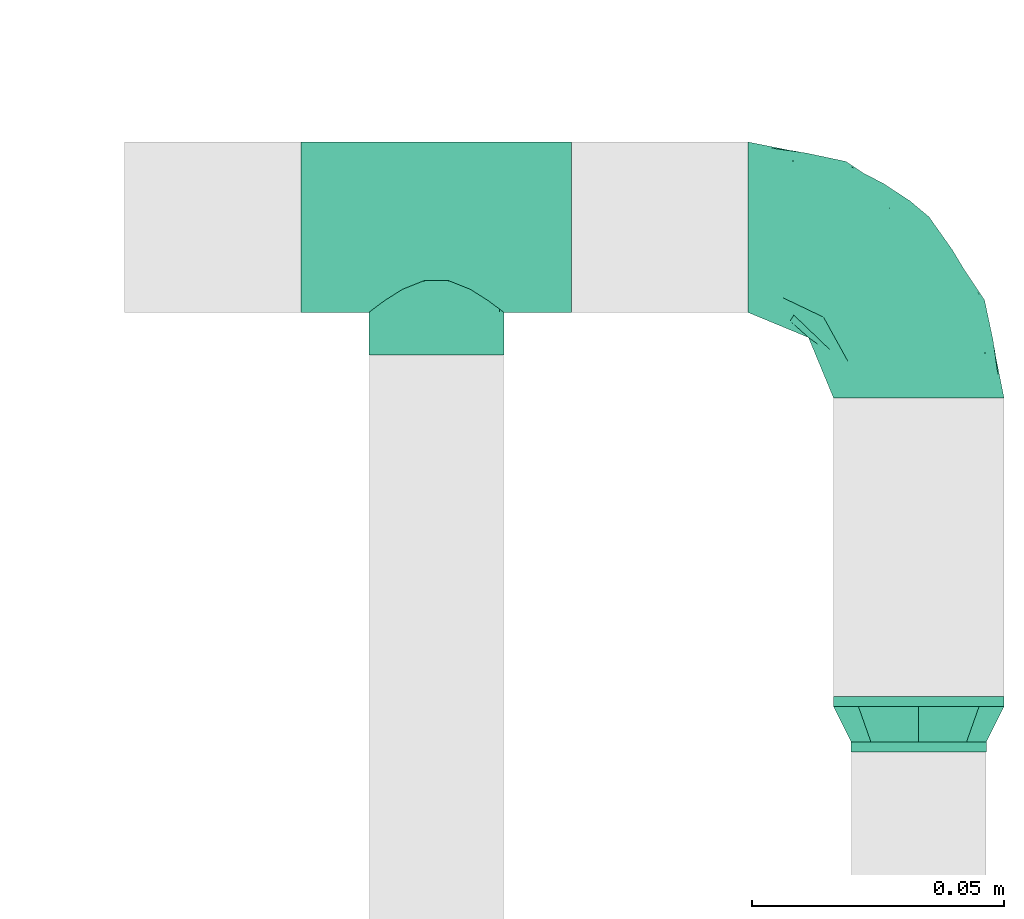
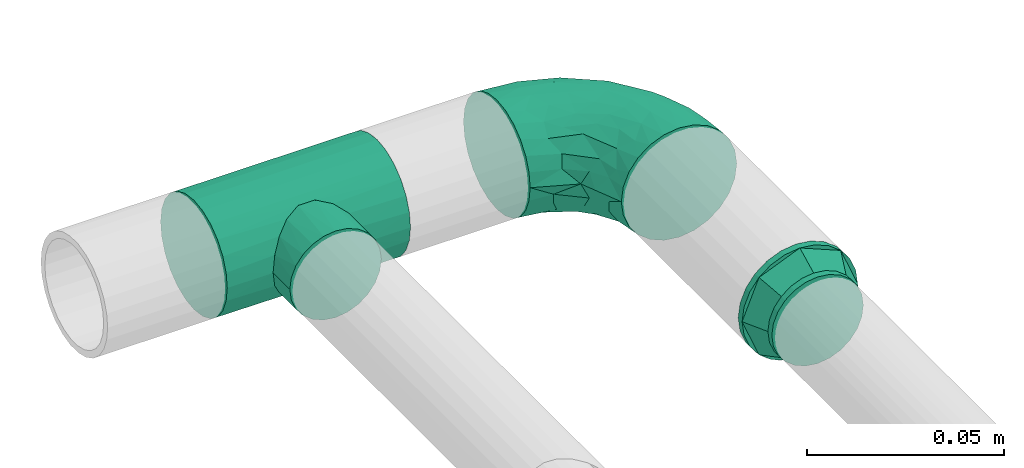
# One storey, part 8 of 13: 3 flow fittings.
"""IFC2X3 building model written with IfcOpenShell, lengths in millimetres."""

from ifc_helpers import new_model, entity, si_unit, converted_unit, derived_unit, direction, frame, origin_with_axes, place, context, subcontext, project, spatial, open_shell, surface_model, source, transform, mapped, type_object, element, save


model = new_model("IFC2X3")

# Units and contexts
model_context = context("Model", 3, precision=0.01, world=frame((0.0, 4.29681676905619e-09, 0.0)), true_north=direction((4.01073788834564e-13, 1.0)))
plan_context = context("Plan", 3, precision=0.01, world=frame((0.0, 4.29681676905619e-09, 0.0)), true_north=direction((4.01073788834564e-13, 1.0)))
body_context = subcontext(model_context, "Body", "Model", "MODEL_VIEW")
ifc_project = project(units=[converted_unit("PLANEANGLEUNIT", "DEGREE", entity("IfcPositiveLengthMeasure", 0.0174532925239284), si_unit("PLANEANGLEUNIT", "RADIAN"), dimensions=[0, 0, 0, 0, 0, 0, 0]), si_unit("AREAUNIT", "SQUARE_METRE"), si_unit("LENGTHUNIT", "METRE", prefix="MILLI"), si_unit("MASSUNIT", "GRAM", prefix="KILO"), si_unit("POWERUNIT", "WATT"), si_unit("PRESSUREUNIT", "PASCAL", prefix="KILO"), si_unit("FORCEUNIT", "NEWTON", prefix="KILO"), si_unit("ELECTRICVOLTAGEUNIT", "VOLT"), si_unit("ELECTRICCURRENTUNIT", "AMPERE"), si_unit("THERMODYNAMICTEMPERATUREUNIT", "DEGREE_CELSIUS"), si_unit("TIMEUNIT", "SECOND"), si_unit("VOLUMEUNIT", "CUBIC_METRE"), derived_unit("LINEARVELOCITYUNIT", [(si_unit("LENGTHUNIT", "METRE"), 1), (si_unit("TIMEUNIT", "SECOND"), -1)]), derived_unit("VOLUMETRICFLOWRATEUNIT", [(si_unit("VOLUMEUNIT", "CUBIC_METRE"), 1), (si_unit("TIMEUNIT", "SECOND"), -1)]), derived_unit("THERMALTRANSMITTANCEUNIT", [(si_unit("POWERUNIT", "WATT"), 1), (si_unit("THERMODYNAMICTEMPERATUREUNIT", "KELVIN"), -1), (si_unit("AREAUNIT", "SQUARE_METRE"), -1)]), derived_unit("SOUNDPRESSUREUNIT", [(si_unit("PRESSUREUNIT", "PASCAL"), 1)])], contexts=[model_context, plan_context])

# Site, building, storey
site_placement = place(None, frame((0.0, -4.29681676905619e-09, 0.0), z_axis=(0.0, 0.0, 1.0), x_axis=(1.0, 0.0, 0.0)))
site = spatial("IfcSite", under=ifc_project, at=site_placement, Name="ENGM", CompositionType="ELEMENT")
building_placement = place(site_placement, frame((0.0, 4.29681676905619e-09, 0.0), z_axis=(0.0, 0.0, 1.0), x_axis=(1.0, 0.0, 0.0)))
building = spatial("IfcBuilding", under=site, at=building_placement, Name="TI", CompositionType="ELEMENT")
storey_placement = place(building_placement, frame((0.0, 0.0, 210900.0), z_axis=(0.0, 0.0, 1.0), x_axis=(1.0, 0.0, 0.0)))
storey = spatial("IfcBuildingStorey", under=building, at=storey_placement, Name="Nivå F", CompositionType="ELEMENT", Elevation=210900.0)

# Flow fittings
pipe_fitting_type_1 = type_object("IfcPipeFittingType", Name="magi_pipe_fe_reducer_centric_short_NOR", PredefinedType="TRANSITION")
shared_shape_1 = source(origin_with_axes(), body_context, "Body", "SurfaceModel", [
    surface_model("IfcShellBasedSurfaceModel", [(-2.0, 11.9501, 11.9501), (-2.0, 0.0, 16.9), (-2.0, 4.37404, 16.32415), (-2.0, 8.45, 14.63583), (-2.0, 14.63583, 8.45), (-2.0, 16.32415, 4.37404), (-2.0, -16.32415, 4.37404), (-2.0, -8.45, 14.63583), (-2.0, -14.63583, 8.45), (-2.0, -11.9501, 11.9501), (-2.0, -4.37404, 16.32415), (-2.0, -16.32415, -4.37404), (-2.0, -16.9, 0.0), (-2.0, -8.45, -14.63583), (-2.0, 16.32415, -4.37404), (-2.0, 11.9501, -11.9501), (-2.0, 14.63583, -8.45), (-2.0, 8.45, -14.63583), (-2.0, 4.37404, -16.32415), (-2.0, 0.0, -16.9), (-2.0, -11.9501, -11.9501), (-2.0, -14.63583, -8.45), (-2.0, -4.37404, -16.32415), (-2.0, 16.9, 0.0), (0.0, 4.37404, -16.32415), (0.0, 8.45, -14.63583), (0.0, 11.9501, -11.9501), (0.0, 0.0, -16.9), (0.0, 16.32415, -4.37404), (0.0, 16.32415, 4.37404), (0.0, 14.63583, -8.45), (0.0, -8.45, -14.63583), (0.0, -4.37404, -16.32415), (0.0, -11.9501, -11.9501), (0.0, -16.32415, -4.37404), (0.0, -14.63583, -8.45), (0.0, -16.32415, 4.37404), (0.0, 16.9, 0.0), (0.0, 14.63583, 8.45), (0.0, 11.9501, 11.9501), (0.0, 4.37404, 16.32415), (0.0, 8.45, 14.63583), (0.0, 0.0, 16.9), (0.0, -14.63583, 8.45), (0.0, -16.9, 0.0), (0.0, -8.45, 14.63583), (0.0, -11.9501, 11.9501), (0.0, -4.37404, 16.32415), (9.0, 12.94341, -3.46818), (9.0, 3.46818, -12.94341), (9.0, 6.7, -11.60474), (9.0, 9.47523, -9.47523), (9.0, -6.7, -11.60474), (9.0, -12.94341, 3.46818), (9.0, 11.60474, -6.7), (9.0, 0.0, -13.4), (9.0, -3.46818, -12.94341), (9.0, -9.47523, -9.47523), (9.0, -12.94341, -3.46818), (9.0, -11.60474, -6.7), (9.0, 13.4, 0.0), (9.0, 12.94341, 3.46818), (9.0, 11.60474, 6.7), (9.0, 9.47523, 9.47523), (9.0, 0.0, 13.4), (9.0, 6.7, 11.60474), (9.0, 3.46818, 12.94341), (9.0, -6.7, 11.60474), (9.0, -9.47523, 9.47523), (9.0, -11.60474, 6.7), (9.0, -13.4, 0.0), (9.0, -3.46818, 12.94341), (7.0, 0.0, 13.4), (7.0, 3.46818, 12.94341), (7.0, 6.7, 11.60474), (7.0, -3.46818, 12.94341), (7.0, 9.47523, 9.47523), (7.0, 11.60474, 6.7), (7.0, 12.94341, 3.46818), (7.0, -12.94341, 3.46818), (7.0, -9.47523, 9.47523), (7.0, -6.7, 11.60474), (7.0, -11.60474, 6.7), (7.0, -12.94341, -3.46818), (7.0, -13.4, 0.0), (7.0, -6.7, -11.60474), (7.0, 12.94341, -3.46818), (7.0, 9.47523, -9.47523), (7.0, 11.60474, -6.7), (7.0, 6.7, -11.60474), (7.0, 3.46818, -12.94341), (7.0, -9.47523, -9.47523), (7.0, -11.60474, -6.7), (7.0, 0.0, -13.4), (7.0, -3.46818, -12.94341), (7.0, 13.4, 0.0), (0.0, 13.18758, -8.96258), (0.0, 14.42505, -5.97505), (7.0, 10.491, -7.02294), (7.0, 11.50677, -4.57065), (0.0, 15.66253, -2.98753), (7.0, 12.45339, -2.28533), (0.0, 2.98753, -15.66253), (0.0, 5.97505, -14.42505), (0.0, 8.96258, -13.18758), (7.0, 4.73762, -11.43761), (7.0, 7.10642, -10.45642), (7.0, 2.36881, -12.41881), (0.0, -14.42505, -5.97505), (7.0, -11.43761, -4.73762), (7.0, -12.41881, -2.36881), (7.0, -2.36881, -12.41881), (7.0, -10.45642, -7.10642), (0.0, -15.70614, -2.88224), (0.0, -13.18758, -8.96258), (7.0, -4.73762, -11.43761), (7.0, -7.10642, -10.45642), (0.0, -5.97505, -14.42505), (0.0, -2.98753, -15.66253), (0.0, -8.96258, -13.18758), (0.0, -13.18758, 8.96258), (0.0, -14.42505, 5.97505), (7.0, -10.491, 7.02294), (7.0, -11.50677, 4.57065), (0.0, -15.66253, 2.98753), (7.0, -12.45339, 2.28533), (0.0, -2.98753, 15.66253), (0.0, -5.97505, 14.42505), (0.0, -8.96258, 13.18758), (7.0, -4.73762, 11.43761), (7.0, -7.10642, 10.45642), (7.0, -2.36881, 12.41881), (0.0, 14.42505, 5.97505), (7.0, 11.43761, 4.73762), (7.0, 12.41881, 2.36881), (7.0, 2.36881, 12.41881), (7.0, 10.45642, 7.10642), (0.0, 15.70614, 2.88224), (0.0, 13.18758, 8.96258), (7.0, 4.73762, 11.43761), (7.0, 7.10642, 10.45642), (0.0, 5.97505, 14.42505), (0.0, 2.98753, 15.66253), (0.0, 8.96258, 13.18758)], [open_shell([[[0, 1, 2]], [[0, 2, 3]], [[0, 4, 5]], [[0, 5, 1]], [[1, 5, 6]], [[7, 8, 9]], [[7, 10, 1]], [[8, 7, 1]], [[1, 6, 8]], [[6, 11, 12]], [[6, 5, 13]], [[5, 14, 15]], [[15, 14, 16]], [[15, 17, 18]], [[13, 5, 15]], [[19, 15, 18]], [[11, 20, 21]], [[20, 11, 13]], [[13, 19, 22]], [[11, 6, 13]], [[15, 19, 13]], [[5, 23, 14]], [[24, 25, 26]], [[27, 24, 26]], [[26, 28, 29]], [[28, 26, 30]], [[26, 29, 31]], [[27, 31, 32]], [[27, 26, 31]], [[33, 34, 35]], [[34, 33, 31]], [[31, 36, 34]], [[29, 28, 37]], [[29, 38, 39]], [[29, 39, 40]], [[40, 36, 31]], [[40, 39, 41]], [[36, 40, 42]], [[42, 43, 36]], [[44, 34, 36]], [[43, 45, 46]], [[43, 42, 45]], [[45, 42, 47]], [[31, 29, 40]], [[11, 34, 12]], [[21, 35, 11]], [[31, 20, 13]], [[21, 20, 33]], [[32, 13, 22]], [[11, 35, 34]], [[34, 44, 12]], [[32, 31, 13]], [[33, 20, 31]], [[33, 35, 21]], [[27, 32, 22]], [[22, 19, 27]], [[18, 24, 19]], [[17, 25, 18]], [[30, 15, 16]], [[17, 15, 26]], [[28, 16, 14]], [[17, 26, 25]], [[25, 24, 18]], [[37, 28, 14]], [[30, 16, 28]], [[30, 26, 15]], [[23, 37, 14]], [[19, 24, 27]], [[5, 29, 23]], [[4, 38, 5]], [[41, 0, 3]], [[4, 0, 39]], [[40, 3, 2]], [[5, 38, 29]], [[29, 37, 23]], [[40, 41, 3]], [[39, 0, 41]], [[39, 38, 4]], [[42, 40, 2]], [[2, 1, 42]], [[10, 47, 1]], [[7, 45, 10]], [[43, 9, 8]], [[7, 9, 46]], [[36, 8, 6]], [[7, 46, 45]], [[45, 47, 10]], [[44, 36, 6]], [[43, 8, 36]], [[43, 46, 9]], [[12, 44, 6]], [[1, 47, 42]], [[33, 44, 27]], [[48, 49, 50]], [[48, 50, 51]], [[52, 49, 53]], [[48, 51, 54]], [[49, 48, 53]], [[55, 52, 56]], [[55, 49, 52]], [[57, 58, 59]], [[53, 58, 57]], [[57, 52, 53]], [[48, 60, 53]], [[61, 62, 63]], [[61, 63, 64]], [[65, 66, 64]], [[65, 64, 63]], [[61, 64, 67]], [[53, 68, 69]], [[70, 58, 53]], [[53, 67, 68]], [[53, 61, 67]], [[71, 67, 64]], [[53, 60, 61]], [[72, 73, 74]], [[75, 72, 74]], [[76, 77, 78]], [[74, 76, 75]], [[78, 79, 76]], [[75, 80, 81]], [[80, 75, 79]], [[80, 79, 82]], [[75, 76, 79]], [[79, 83, 84]], [[79, 78, 85]], [[86, 87, 78]], [[87, 86, 88]], [[89, 85, 78]], [[78, 87, 89]], [[85, 89, 90]], [[83, 91, 92]], [[83, 79, 91]], [[85, 93, 94]], [[79, 85, 91]], [[90, 93, 85]], [[95, 86, 78]], [[83, 58, 84]], [[92, 59, 83]], [[52, 91, 85]], [[92, 91, 57]], [[56, 85, 94]], [[83, 59, 58]], [[58, 70, 84]], [[56, 52, 85]], [[57, 91, 52]], [[57, 59, 92]], [[55, 56, 94]], [[94, 93, 55]], [[90, 49, 93]], [[89, 50, 90]], [[54, 87, 88]], [[89, 87, 51]], [[48, 88, 86]], [[89, 51, 50]], [[50, 49, 90]], [[60, 48, 86]], [[54, 88, 48]], [[54, 51, 87]], [[95, 60, 86]], [[93, 49, 55]], [[78, 61, 95]], [[77, 62, 78]], [[65, 76, 74]], [[77, 76, 63]], [[66, 74, 73]], [[78, 62, 61]], [[61, 60, 95]], [[66, 65, 74]], [[63, 76, 65]], [[63, 62, 77]], [[64, 66, 73]], [[73, 72, 64]], [[75, 71, 72]], [[81, 67, 75]], [[69, 80, 82]], [[81, 80, 68]], [[53, 82, 79]], [[81, 68, 67]], [[67, 71, 75]], [[70, 53, 79]], [[69, 82, 53]], [[69, 68, 80]], [[84, 70, 79]], [[72, 71, 64]], [[72, 80, 95]], [[95, 76, 72]], [[80, 91, 95]], [[91, 93, 95]], [[87, 95, 93]], [[80, 84, 91]], [[42, 39, 46]], [[44, 46, 39]], [[39, 27, 44]], [[26, 27, 39]], [[39, 37, 26]], [[96, 97, 98]], [[99, 100, 101]], [[37, 95, 101]], [[93, 27, 102]], [[103, 104, 105]], [[104, 26, 106]], [[87, 26, 96]], [[103, 107, 102]], [[108, 109, 110]], [[37, 101, 100]], [[27, 93, 111]], [[112, 33, 91]], [[110, 84, 113]], [[109, 114, 112]], [[33, 112, 114]], [[115, 116, 117]], [[115, 118, 111]], [[93, 102, 107]], [[116, 91, 119]], [[27, 111, 118]], [[97, 99, 98]], [[87, 96, 98]], [[100, 99, 97]], [[26, 87, 106]], [[105, 104, 106]], [[107, 103, 105]], [[84, 44, 113]], [[108, 110, 113]], [[114, 109, 108]], [[91, 33, 119]], [[117, 116, 119]], [[118, 115, 117]], [[120, 121, 122]], [[123, 124, 125]], [[44, 84, 125]], [[72, 42, 126]], [[127, 128, 129]], [[128, 46, 130]], [[80, 46, 120]], [[127, 131, 126]], [[132, 133, 134]], [[44, 125, 124]], [[42, 72, 135]], [[136, 39, 76]], [[134, 95, 137]], [[133, 138, 136]], [[39, 136, 138]], [[139, 140, 141]], [[139, 142, 135]], [[72, 126, 131]], [[140, 76, 143]], [[42, 135, 142]], [[121, 123, 122]], [[80, 120, 122]], [[124, 123, 121]], [[46, 80, 130]], [[129, 128, 130]], [[131, 127, 129]], [[95, 37, 137]], [[132, 134, 137]], [[138, 133, 132]], [[76, 39, 143]], [[141, 140, 143]], [[142, 139, 141]]])]),
])
flow_fitting_1_placement = place(storey_placement, frame((598861.17776, 571381.94168, -48.6000000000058), z_axis=(0.0, 0.0, 1.0), x_axis=(0.0, -1.0, 0.0)))
element("IfcFlowFitting", 1, at=flow_fitting_1_placement, inside=storey, type_object=pipe_fitting_type_1, Name="magi_pipe_fe_reducer_centric_short_NOR", context=body_context, shape_type="MappedRepresentation", body=[
    mapped(shared_shape_1, transform((0.0, 0.0, 0.0), scale=1.0)),
])
pipe_fitting_type_2 = type_object("IfcPipeFittingType", Name="magi_pipe_fe_tee_centric_90_NOR", PredefinedType="JUNCTION")
shared_shape_2 = source(origin_with_axes(), body_context, "Body", "SurfaceModel", [
    surface_model("IfcShellBasedSurfaceModel", [(-26.8, -14.63583, -8.45), (-26.8, -16.32415, 4.37404), (-26.8, 0.0, -16.9), (-26.8, 8.45, -14.63583), (-26.8, 4.37404, -16.32415), (-26.8, 14.63583, -8.45), (-26.8, 16.32415, -4.37404), (-26.8, 11.9501, -11.9501), (-26.8, 8.45, 14.63583), (-26.8, -4.37404, -16.32415), (-26.8, -8.45, -14.63583), (-26.8, -11.9501, -11.9501), (-26.8, -16.32415, -4.37404), (-26.8, -16.9, 0.0), (-26.8, 16.32415, 4.37404), (-26.8, 14.63583, 8.45), (-26.8, -8.45, 14.63583), (-26.8, 11.9501, 11.9501), (-26.8, 4.37404, 16.32415), (-26.8, 0.0, 16.9), (-26.8, -11.9501, 11.9501), (-26.8, -14.63583, 8.45), (-26.8, -4.37404, 16.32415), (-26.8, 16.9, 0.0), (26.8, 4.37404, -16.32415), (26.8, -16.32415, -4.37404), (26.8, 0.0, -16.9), (26.8, 14.63583, -8.45), (26.8, 8.45, -14.63583), (26.8, 8.45, 14.63583), (26.8, 11.9501, -11.9501), (26.8, -8.45, -14.63583), (26.8, -4.37404, -16.32415), (26.8, -11.9501, -11.9501), (26.8, -14.63583, -8.45), (26.8, -16.9, 0.0), (26.8, 16.32415, -4.37404), (26.8, 16.32415, 4.37404), (26.8, 14.63583, 8.45), (26.8, -16.32415, 4.37404), (26.8, 11.9501, 11.9501), (26.8, -8.45, 14.63583), (26.8, 4.37404, 16.32415), (26.8, -14.63583, 8.45), (26.8, -11.9501, 11.9501), (26.8, 0.0, 16.9), (26.8, -4.37404, 16.32415), (26.8, 16.9, 0.0), (13.4, -16.9, 0.0), (12.51826, -16.20978, 4.7805), (10.16237, -14.46802, 8.7342), (6.75997, -12.31857, 11.56991), (2.4399, -10.58315, 13.176), (-13.4, -16.9, 0.0), (-12.51876, -16.21016, 4.7792), (-6.76097, -12.31912, 11.56932), (-2.44418, -10.58414, 13.1752), (-10.16446, -14.46949, 8.73177), (2.4399, -10.58315, -13.176), (10.16237, -14.46802, -8.7342), (6.75997, -12.31857, -11.56991), (12.51826, -16.20978, -4.7805), (-2.44418, -10.58414, -13.1752), (-6.76097, -12.31912, -11.56932), (-10.16446, -14.46949, -8.73177), (-12.51876, -16.21016, -4.7792), (9.47523, -25.35, -9.47523), (0.0, -25.35, -13.4), (3.46818, -25.35, -12.94341), (6.7, -25.35, -11.60474), (11.60474, -25.35, -6.7), (12.94341, -25.35, -3.46818), (-12.94341, -25.35, 3.46818), (-12.94341, -25.35, -3.46818), (-3.46818, -25.35, -12.94341), (-9.47523, -25.35, -9.47523), (-6.7, -25.35, -11.60474), (-11.60474, -25.35, -6.7), (-13.4, -25.35, 0.0), (13.4, -25.35, 0.0), (12.94341, -25.35, 3.46818), (11.60474, -25.35, 6.7), (6.7, -25.35, 11.60474), (9.47523, -25.35, 9.47523), (3.46818, -25.35, 12.94341), (-9.47523, -25.35, 9.47523), (-11.60474, -25.35, 6.7), (-6.7, -25.35, 11.60474), (-3.46818, -25.35, 12.94341), (0.0, -25.35, 13.4), (-12.95938, -16.55508, 2.3896), (12.95913, -16.55489, 2.39025), (-0.00214, -10.58364, 13.1756), (12.95913, -16.55489, -2.39025), (-0.00214, -10.58364, -13.1756), (-12.95938, -16.55508, -2.3896)], [open_shell([[[0, 1, 2]], [[3, 4, 5]], [[4, 6, 5]], [[7, 3, 5]], [[8, 4, 2]], [[9, 10, 2]], [[10, 11, 2]], [[12, 13, 0]], [[0, 2, 11]], [[13, 1, 0]], [[8, 6, 4]], [[8, 14, 6]], [[15, 14, 8]], [[2, 16, 8]], [[17, 15, 8]], [[18, 8, 19]], [[20, 16, 21]], [[1, 21, 16]], [[22, 19, 16]], [[16, 2, 1]], [[16, 19, 8]], [[6, 14, 23]], [[24, 25, 26]], [[27, 24, 28]], [[25, 24, 29]], [[27, 28, 30]], [[29, 24, 27]], [[26, 31, 32]], [[26, 33, 31]], [[26, 25, 34]], [[34, 33, 26]], [[35, 25, 29]], [[27, 36, 37]], [[27, 37, 29]], [[29, 37, 38]], [[29, 39, 35]], [[29, 38, 40]], [[41, 29, 42]], [[43, 41, 44]], [[41, 43, 39]], [[41, 45, 46]], [[41, 39, 29]], [[42, 45, 41]], [[36, 47, 37]], [[35, 39, 48]], [[49, 48, 39]], [[39, 43, 49]], [[43, 44, 50]], [[51, 50, 44]], [[52, 51, 44]], [[44, 41, 52]], [[43, 50, 49]], [[53, 54, 1]], [[1, 13, 53]], [[54, 21, 1]], [[55, 56, 20]], [[21, 57, 20]], [[57, 21, 54]], [[20, 57, 55]], [[56, 16, 20]], [[52, 16, 56]], [[19, 46, 45]], [[22, 41, 46]], [[18, 45, 42]], [[38, 37, 14]], [[17, 29, 40]], [[15, 40, 38]], [[42, 29, 8]], [[23, 37, 47]], [[16, 41, 22]], [[22, 46, 19]], [[18, 19, 45]], [[42, 8, 18]], [[8, 29, 17]], [[15, 17, 40]], [[14, 15, 38]], [[37, 23, 14]], [[41, 16, 52]], [[23, 47, 36]], [[27, 30, 7]], [[6, 36, 27]], [[26, 32, 9]], [[4, 28, 24]], [[26, 2, 24]], [[30, 28, 3]], [[10, 32, 31]], [[5, 6, 27]], [[23, 36, 6]], [[27, 7, 5]], [[7, 30, 3]], [[3, 28, 4]], [[2, 4, 24]], [[9, 2, 26]], [[32, 10, 9]], [[31, 58, 10]], [[33, 59, 60]], [[59, 33, 34]], [[60, 58, 33]], [[33, 58, 31]], [[25, 35, 48]], [[25, 61, 34]], [[61, 25, 48]], [[34, 61, 59]], [[62, 63, 11]], [[11, 64, 0]], [[64, 11, 63]], [[62, 11, 10]], [[65, 53, 12]], [[65, 12, 0]], [[12, 53, 13]], [[65, 0, 64]], [[58, 62, 10]], [[66, 67, 68]], [[66, 68, 69]], [[66, 70, 71]], [[67, 66, 72]], [[72, 73, 67]], [[74, 75, 76]], [[74, 67, 75]], [[77, 75, 67]], [[67, 73, 77]], [[73, 72, 78]], [[72, 66, 71]], [[79, 80, 81]], [[81, 82, 71]], [[82, 72, 71]], [[82, 81, 83]], [[72, 82, 84]], [[72, 85, 86]], [[85, 72, 87]], [[72, 88, 87]], [[88, 72, 89]], [[72, 84, 89]], [[71, 79, 81]], [[72, 90, 78]], [[57, 86, 85]], [[72, 86, 54]], [[85, 87, 55]], [[72, 54, 90]], [[90, 53, 78]], [[54, 86, 57]], [[91, 49, 80]], [[55, 88, 56]], [[55, 57, 85]], [[89, 52, 92]], [[55, 87, 88]], [[52, 89, 84]], [[82, 51, 84]], [[50, 83, 81]], [[82, 83, 51]], [[49, 81, 80]], [[83, 50, 51]], [[51, 52, 84]], [[79, 91, 80]], [[49, 50, 81]], [[91, 79, 48]], [[89, 56, 88]], [[92, 56, 89]], [[71, 93, 79]], [[59, 70, 66]], [[71, 70, 61]], [[66, 69, 60]], [[93, 48, 79]], [[61, 70, 59]], [[60, 68, 58]], [[60, 59, 66]], [[67, 62, 94]], [[60, 69, 68]], [[67, 74, 62]], [[95, 78, 53]], [[63, 74, 76]], [[65, 77, 73]], [[95, 65, 73]], [[67, 58, 68]], [[71, 61, 93]], [[74, 63, 62]], [[63, 76, 75]], [[63, 75, 64]], [[64, 75, 77]], [[64, 77, 65]], [[78, 95, 73]], [[94, 58, 67]]])]),
])
flow_fitting_2_placement = place(storey_placement, frame((598765.57776, 571476.94171, -48.6000000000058), z_axis=(0.0, 0.0, -1.0), x_axis=(-1.0, 0.0, 0.0)))
element("IfcFlowFitting", 2, at=flow_fitting_2_placement, inside=storey, type_object=pipe_fitting_type_2, Name="magi_pipe_fe_tee_centric_90_NOR", context=body_context, shape_type="MappedRepresentation", body=[
    mapped(shared_shape_2, transform((0.0, 0.0, 0.0), scale=1.0)),
])
pipe_fitting_type_3 = type_object("IfcPipeFittingType", Name="magi_pipe_fe_elbow_short_001", PredefinedType="BEND")
shared_shape_3 = source(origin_with_axes(), body_context, "Body", "SurfaceModel", [
    surface_model("IfcShellBasedSurfaceModel", [(-33.8, 4.37404, -16.32415), (-33.8, 0.0, -16.9), (-33.8, 11.9501, -11.9501), (-33.8, 8.45, -14.63583), (-33.8, 16.32415, -4.37404), (-33.8, 14.63583, -8.45), (-33.8, -14.63583, -8.45), (-33.8, -16.32415, -4.37404), (-33.8, -8.45, 14.63583), (-33.8, -11.9501, -11.9501), (-33.8, -8.45, -14.63583), (-33.8, -4.37404, -16.32415), (-33.8, -16.9, 0.0), (-33.8, -16.32415, 4.37404), (-33.8, 11.9501, 11.9501), (-33.8, 4.37404, 16.32415), (-33.8, 8.45, 14.63583), (-33.8, -14.63583, 8.45), (-33.8, -11.9501, 11.9501), (-33.8, -4.37404, 16.32415), (-33.8, 0.0, 16.9), (-11.9501, 33.8, -11.9501), (-4.37404, 33.8, -16.32415), (-8.45, 33.8, -14.63583), (-14.63583, 33.8, -8.45), (-16.32415, 33.8, -4.37404), (-24.79389, -13.12945, 9.48721), (-22.19287, -9.75018, 12.59315), (-24.09897, -14.97035, 0.0), (-14.93934, -10.76256, 8.5297), (-22.46095, -14.75051, 5.27077), (-24.84007, -6.39063, 15.2048), (-25.81779, -2.23879, 16.61097), (-23.66549, 2.59054, 16.87119), (-6.17382, -7.5455, 0.0), (-13.23888, -11.9251, 4.33236), (-14.39795, -13.04069, 0.0), (-29.23923, 10.23435, 13.77053), (-1.45439, -2.85688, 7.61475), (-0.28326, 0.34872, 10.09509), (-5.74484, -4.04709, 10.4122), (-4.41137, 11.31918, 16.59407), (-8.39727, 3.10034, 15.7812), (-1.72649, 9.1306, 15.53089), (-26.19233, 20.0512, 0.0), (-33.8, 16.9, 0.0), (-28.14518, 17.29657, 4.25857), (-29.58514, 15.86957, 7.00283), (-33.8, 16.32415, 4.37404), (-33.8, 14.63583, 8.45), (-26.05147, 6.6281, 15.96447), (-5.87354, 16.61944, 16.86968), (-12.51807, 12.51807, 16.48937), (-10.06312, 7.38516, 16.81295), (-3.01882, 3.01882, 13.81718), (-13.0571, -4.10169, 14.04018), (-16.82553, -0.15166, 16.38038), (-13.68847, -7.71387, 11.55891), (-10.67958, 26.17414, 14.008), (-12.78295, 18.26924, 15.06066), (-7.30894, 22.89991, 16.09489), (-13.88562, 22.45231, 12.93244), (-18.04944, 15.16501, 14.04434), (-23.11658, 20.08178, 4.02986), (-21.84989, 21.84989, 0.0), (-18.55817, 25.48277, 3.93065), (-17.81434, 18.87373, 11.97104), (-17.39909, 24.75344, 7.64977), (-24.21253, 17.66365, 7.72657), (-6.30846, 29.15138, 15.82987), (-13.95142, 26.94732, 11.03289), (-18.57098, 7.23906, 16.59756), (-16.58335, 4.14122, 16.89279), (-17.96666, 11.46709, 15.63151), (-9.84453, 17.54304, 16.18938), (0.15166, 16.82553, 16.38038), (4.10169, 13.0571, 14.04018), (-8.0212, -7.54413, 7.93275), (1.00345, -2.19508, 4.57414), (5.13203, 3.01004, 5.90201), (-23.27207, 11.47201, 14.23154), (-16.9, 33.8, 0.0), (-20.0512, 26.19233, 0.0), (-14.63583, 33.8, 8.45), (-4.55488, -6.72064, 4.90681), (2.05031, -2.05031, 0.0), (-26.75399, 2.1369, -16.845), (-14.61995, 24.73803, -11.27736), (-28.45274, -13.45335, -9.81895), (-26.00469, 6.63555, -15.96645), (-23.06726, 20.04573, -4.26202), (-24.53586, 11.08096, -14.13417), (-26.72048, 14.00837, -11.05776), (-20.38182, 15.48705, -12.74596), (-15.65186, 19.64213, -13.01327), (-12.03528, 20.66498, -14.67665), (-15.61907, 15.61906, -14.83879), (-25.56551, -15.26206, 0.0), (-24.65452, -15.12934, -5.50955), (-7.35442, -8.31014, -5.65563), (-15.67504, -12.54494, -5.54878), (-24.44989, -10.0967, -12.75976), (-21.23441, -12.53268, -9.15363), (-24.89911, -2.13088, -16.591), (-28.54238, -6.66249, -15.38093), (-18.44386, -7.71663, -13.26957), (-28.64342, 17.44413, -2.89318), (-16.57067, 26.81947, -7.36596), (-17.69055, 27.4263, -3.76405), (-12.89279, -9.7522, -8.66343), (-5.96611, 5.96611, -15.95814), (0.21081, 14.67501, -16.07388), (0.71146, 7.93863, -14.09382), (-20.53709, 20.09345, -8.28985), (0.0, 33.8, -16.9), (-2.1369, 26.75399, -16.845), (-6.89872, 24.58781, -16.02578), (-10.60739, 26.53157, -13.98044), (-21.40218, -5.83237, -15.03047), (-14.67501, -0.21081, -16.07388), (-3.99512, 18.61798, -16.89635), (-9.1383, 9.86148, -16.89041), (-9.99983, 16.02119, -16.39699), (-16.68576, 9.78031, -16.34199), (-27.01915, 16.61158, -7.12979), (-13.80647, -4.26506, -14.17873), (-19.37495, 27.82495, 0.0), (-5.70658, -5.33066, -8.89288), (-12.61842, -6.89393, -11.82233), (-18.84705, 19.14018, -10.96545), (14.75051, 22.46093, 5.27077), (11.9251, 13.23886, 4.33236), (13.0407, 14.39794, 0.0), (10.76256, 14.93932, 8.5297), (13.12946, 24.79387, 9.48721), (9.75019, 22.19285, 12.59315), (14.63584, 33.79998, 8.45), (14.97035, 24.09896, 0.0), (-2.31621, 25.28, 16.85849), (-8.44999, 33.79999, 14.63583), (-11.95009, 33.79999, 11.9501), (6.39064, 24.84006, 15.2048), (8.45001, 33.79999, 14.63583), (-26.50417, 14.06512, 11.08152), (3.84842, 5.86993, 10.70473), (7.5455, 6.17382, 0.0), (5.2416, 1.75428, 2.53265), (8.70457, 7.04946, 3.9918), (8.48521, 8.76698, 7.09294), (-6.79019, -0.28281, -13.8478), (10.09671, 24.44987, -12.75976), (5.83237, 21.40217, -15.03047), (6.6625, 28.54237, -15.38093), (12.53269, 21.2344, -9.15364), (12.54495, 15.67502, -5.54878), (9.7522, 12.89277, -8.66343), (13.45335, 28.45273, -9.81895), (15.12934, 24.6545, -5.50955), (0.16522, 0.41303, -9.71728), (-5.13869, -2.37199, -11.53565), (3.49291, 14.42771, -14.76381), (2.93192, 5.89627, -11.55917), (6.89394, 12.61841, -11.82234), (5.58056, 5.95323, -8.79455), (2.13089, 24.8991, -16.591), (8.31014, 7.35441, -5.65563), (-18.61797, 3.99512, -16.89635), (15.26207, 25.5655, 0.0), (1.70016, -1.28724, -5.09504), (8.45001, 33.79999, -14.63583), (7.71387, 13.68847, 11.55891), (4.37404, 33.8, -16.32415), (-4.37403, 33.79999, 16.32415), (-16.32414, 33.79999, 4.37404), (0.0, 33.8, 16.9), (16.32415, 33.79999, -4.37404), (14.63584, 33.79999, -8.45), (11.95011, 33.79999, -11.9501), (16.32415, 33.79999, 4.37404), (16.90001, 33.79999, 0.0), (11.95011, 33.79999, 11.9501), (4.37404, 33.8, 16.32415), (2.2388, 25.81778, 16.61097)], [open_shell([[[0, 1, 2]], [[3, 0, 2]], [[4, 5, 2]], [[6, 2, 1]], [[2, 7, 8]], [[9, 6, 10]], [[1, 11, 10]], [[12, 13, 7]], [[4, 2, 14]], [[15, 16, 14]], [[15, 14, 8]], [[17, 18, 13]], [[19, 20, 8]], [[18, 8, 7]], [[8, 20, 15]], [[21, 22, 23]], [[21, 24, 25]], [[18, 26, 27]], [[13, 12, 28]], [[29, 26, 30]], [[26, 18, 17]], [[13, 30, 17]], [[27, 8, 18]], [[27, 31, 8]], [[20, 32, 33]], [[34, 35, 36]], [[16, 37, 14]], [[19, 32, 20]], [[38, 39, 40]], [[41, 42, 43]], [[44, 45, 46]], [[47, 48, 49]], [[20, 33, 15]], [[15, 50, 16]], [[51, 52, 53]], [[40, 54, 55]], [[31, 55, 56]], [[57, 55, 27]], [[8, 31, 19]], [[35, 30, 36]], [[58, 59, 60]], [[61, 62, 59]], [[44, 63, 64]], [[65, 64, 63]], [[66, 67, 68]], [[45, 48, 46]], [[58, 60, 69]], [[67, 65, 63]], [[61, 58, 70]], [[13, 28, 30]], [[50, 15, 33]], [[71, 72, 53]], [[73, 50, 71]], [[74, 59, 52]], [[60, 74, 51]], [[55, 31, 27]], [[36, 30, 28]], [[32, 31, 56]], [[57, 27, 29]], [[55, 54, 42]], [[75, 43, 76]], [[77, 40, 57]], [[38, 40, 77]], [[35, 29, 30]], [[38, 78, 79]], [[30, 26, 17]], [[27, 26, 29]], [[71, 50, 33]], [[37, 50, 80]], [[48, 47, 46]], [[68, 67, 63]], [[81, 82, 65]], [[65, 82, 64]], [[83, 67, 70]], [[66, 70, 67]], [[61, 59, 58]], [[73, 62, 80]], [[71, 53, 52]], [[42, 53, 56]], [[51, 53, 41]], [[31, 32, 19]], [[33, 32, 56]], [[39, 54, 40]], [[71, 33, 72]], [[73, 71, 52]], [[59, 73, 52]], [[50, 73, 80]], [[59, 62, 73]], [[33, 56, 72]], [[56, 53, 72]], [[55, 42, 56]], [[43, 42, 54]], [[76, 43, 54]], [[41, 43, 75]], [[51, 41, 75]], [[42, 41, 53]], [[50, 37, 16]], [[46, 68, 63]], [[68, 46, 47]], [[46, 63, 44]], [[35, 34, 84]], [[77, 35, 84]], [[85, 84, 34]], [[77, 57, 29]], [[40, 55, 57]], [[35, 77, 29]], [[38, 77, 84]], [[78, 38, 84]], [[84, 85, 78]], [[79, 39, 38]], [[70, 66, 61]], [[61, 66, 62]], [[51, 74, 52]], [[60, 59, 74]], [[0, 86, 1]], [[24, 21, 87]], [[9, 88, 6]], [[3, 89, 0]], [[64, 90, 44]], [[91, 2, 92]], [[91, 92, 93]], [[94, 95, 96]], [[91, 3, 2]], [[36, 97, 98]], [[98, 7, 6]], [[99, 34, 100]], [[101, 9, 10]], [[100, 98, 102]], [[103, 11, 1]], [[10, 104, 101]], [[102, 101, 105]], [[104, 10, 11]], [[45, 44, 106]], [[107, 108, 25]], [[100, 109, 99]], [[110, 111, 112]], [[25, 24, 107]], [[87, 113, 107]], [[114, 115, 22]], [[22, 115, 116]], [[21, 23, 117]], [[90, 108, 113]], [[104, 103, 118]], [[89, 3, 91]], [[22, 116, 23]], [[118, 103, 119]], [[93, 94, 96]], [[2, 5, 92]], [[120, 121, 122]], [[123, 89, 91]], [[106, 124, 4]], [[117, 23, 116]], [[122, 116, 120]], [[94, 117, 95]], [[88, 98, 6]], [[97, 12, 7]], [[111, 110, 121]], [[118, 125, 105]], [[88, 101, 102]], [[86, 103, 1]], [[109, 100, 102]], [[97, 7, 98]], [[124, 92, 5]], [[91, 93, 96]], [[123, 91, 96]], [[87, 107, 24]], [[108, 64, 126]], [[116, 122, 95]], [[87, 21, 117]], [[108, 81, 25]], [[44, 90, 106]], [[90, 113, 124]], [[108, 90, 64]], [[127, 99, 109]], [[92, 124, 113]], [[5, 4, 124]], [[36, 98, 100]], [[89, 86, 0]], [[116, 115, 120]], [[120, 111, 121]], [[123, 96, 122]], [[119, 121, 110]], [[121, 123, 122]], [[102, 128, 109]], [[128, 127, 109]], [[113, 129, 92]], [[129, 87, 94]], [[129, 94, 93]], [[117, 94, 87]], [[116, 95, 117]], [[122, 96, 95]], [[92, 129, 93]], [[87, 129, 113]], [[108, 107, 113]], [[81, 108, 126]], [[124, 106, 90]], [[45, 106, 4]], [[103, 104, 11]], [[101, 104, 118]], [[101, 88, 9]], [[98, 88, 102]], [[36, 100, 34]], [[105, 125, 128]], [[119, 125, 118]], [[102, 105, 128]], [[118, 105, 101]], [[1, 10, 6]], [[6, 7, 2]], [[14, 48, 4]], [[49, 48, 14]], [[2, 8, 14]], [[13, 18, 7]], [[45, 4, 48]], [[130, 131, 132]], [[133, 134, 135]], [[131, 130, 133]], [[136, 134, 130]], [[130, 132, 137]], [[60, 51, 138]], [[139, 140, 58]], [[140, 70, 58]], [[141, 135, 142]], [[135, 141, 76]], [[143, 80, 62]], [[75, 76, 141]], [[76, 54, 144]], [[130, 134, 133]], [[75, 138, 51]], [[143, 62, 66]], [[143, 37, 80]], [[145, 132, 131]], [[146, 78, 85]], [[85, 145, 146]], [[147, 145, 131]], [[145, 147, 146]], [[148, 131, 133]], [[131, 148, 147]], [[125, 119, 149]], [[150, 151, 152]], [[153, 154, 155]], [[153, 156, 157]], [[158, 127, 159]], [[112, 111, 160]], [[157, 154, 153]], [[161, 162, 163]], [[120, 164, 111]], [[155, 154, 165]], [[162, 151, 150]], [[154, 132, 145]], [[162, 150, 153]], [[111, 164, 151]], [[115, 164, 120]], [[160, 162, 112]], [[166, 121, 119]], [[119, 110, 149]], [[132, 157, 167]], [[155, 163, 162]], [[149, 110, 112]], [[158, 163, 168]], [[149, 112, 161]], [[149, 128, 125]], [[157, 132, 154]], [[154, 145, 165]], [[123, 121, 166]], [[149, 159, 128]], [[168, 127, 158]], [[163, 155, 165]], [[162, 153, 155]], [[168, 163, 165]], [[163, 158, 161]], [[161, 158, 159]], [[112, 162, 161]], [[128, 159, 127]], [[161, 159, 149]], [[150, 152, 169]], [[164, 152, 151]], [[150, 156, 153]], [[111, 151, 160]], [[168, 145, 85]], [[162, 160, 151]], [[145, 168, 165]], [[168, 85, 34]], [[143, 68, 47]], [[143, 66, 68]], [[14, 143, 49]], [[37, 143, 14]], [[138, 69, 60]], [[143, 47, 49]], [[76, 144, 170]], [[39, 79, 144]], [[54, 39, 144]], [[171, 164, 114]], [[164, 115, 114]], [[172, 69, 138]], [[83, 173, 67]], [[172, 139, 69]], [[138, 174, 172]], [[58, 69, 139]], [[67, 173, 65]], [[81, 65, 173]], [[166, 119, 103]], [[86, 89, 166]], [[103, 86, 166]], [[89, 123, 166]], [[140, 173, 83]], [[140, 139, 172]], [[170, 135, 76]], [[140, 83, 70]], [[146, 147, 79]], [[170, 133, 135]], [[144, 79, 148]], [[79, 147, 148]], [[79, 78, 146]], [[148, 170, 144]], [[148, 133, 170]], [[127, 168, 99]], [[164, 171, 152]], [[168, 34, 99]], [[22, 169, 114]], [[22, 21, 175]], [[21, 142, 175]], [[169, 176, 177]], [[169, 171, 114]], [[22, 176, 169]], [[175, 176, 22]], [[175, 178, 179]], [[142, 21, 25]], [[140, 81, 173]], [[81, 140, 142]], [[142, 140, 172]], [[178, 180, 136]], [[178, 175, 180]], [[142, 174, 181]], [[175, 142, 180]], [[172, 174, 142]], [[142, 25, 81]], [[135, 180, 142]], [[141, 142, 181]], [[136, 130, 178]], [[181, 174, 182]], [[134, 136, 180]], [[137, 178, 130]], [[182, 138, 75]], [[182, 141, 181]], [[179, 178, 137]], [[135, 134, 180]], [[138, 182, 174]], [[141, 182, 75]], [[169, 177, 150]], [[156, 177, 176]], [[152, 171, 169]], [[156, 150, 177]], [[176, 175, 157]], [[175, 179, 167]], [[175, 167, 157]], [[157, 156, 176]]])]),
])
flow_fitting_3_placement = place(storey_placement, frame((598861.17776, 571476.94168, -48.6000000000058), z_axis=(0.0, 0.0, 1.0), x_axis=(0.0, 1.0, 0.0)))
element("IfcFlowFitting", 3, at=flow_fitting_3_placement, inside=storey, type_object=pipe_fitting_type_3, Name="magi_pipe_fe_elbow_short_001", context=body_context, shape_type="MappedRepresentation", body=[
    mapped(shared_shape_3, transform((0.0, 0.0, 0.0), scale=1.0)),
])

save(model, "model.ifc")
